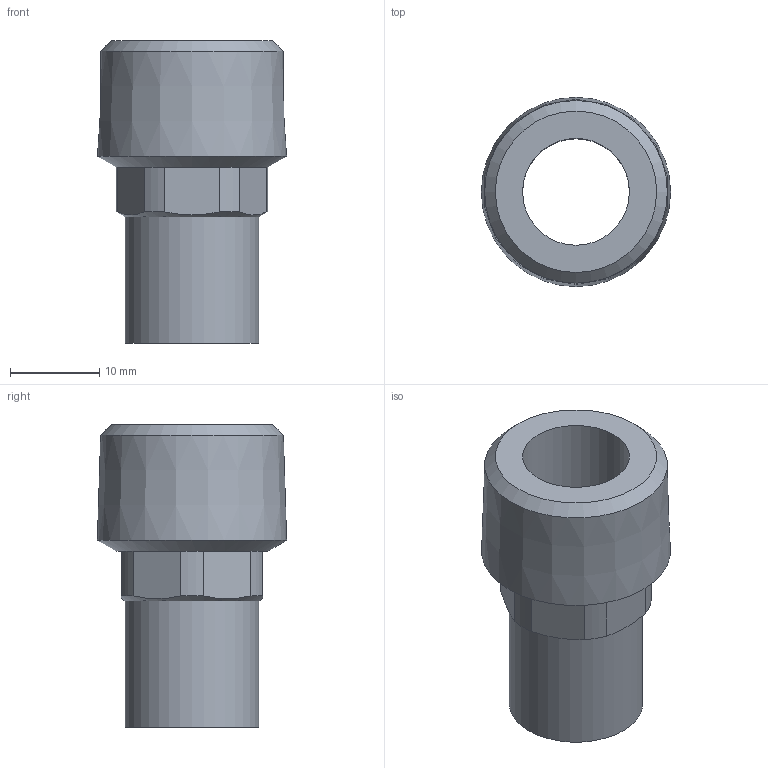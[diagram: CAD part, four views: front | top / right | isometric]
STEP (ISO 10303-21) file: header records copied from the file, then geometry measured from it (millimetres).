
FILE_DESCRIPTION(/* description */ (''),/* implementation_level */ '2;1');
FILE_NAME(/* name */ '14280g_15-12(1).stp',/* time_stamp */ '2024-01-26T15:08:45+01:00',/* author */ ('gomulka'),/* organization */ (''),/* preprocessor_version */ 'ST-DEVELOPER v20',/* originating_system */ 'Autodesk Inventor 2024',/* authorisation */ '');
FILE_SCHEMA (('AUTOMOTIVE_DESIGN { 1 0 10303 214 3 1 1 }'));
Length unit declared in the file: millimetre
Products named in the file (1): R14280g_15-12(1)!!!!
Bounding box: 21.25 x 21.25 x 34 mm (x, y, z)
Volume: 4591.1 mm3; surface area: 3511 mm2
Topology: 1 solids, 1 shells, 26 faces, 62 edges, 38 vertices
Faces by surface type: plane 14, cylinder 8, cone 4
Full cylindrical faces by diameter (mm): 12 x1, 15 x1
Entity records: 787 total; most frequent: CARTESIAN_POINT 151, DIRECTION 130, ORIENTED_EDGE 124, EDGE_CURVE 62, AXIS2_PLACEMENT_3D 53, VERTEX_POINT 38, EDGE_LOOP 28, CIRCLE 26
